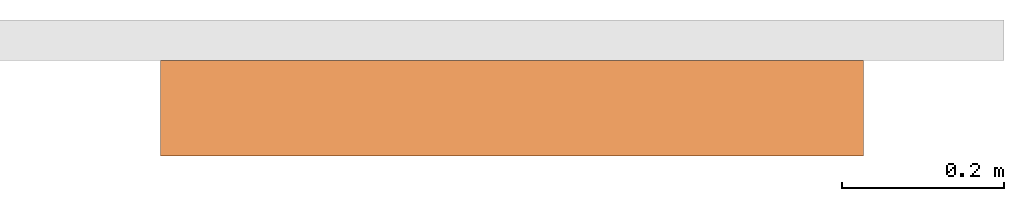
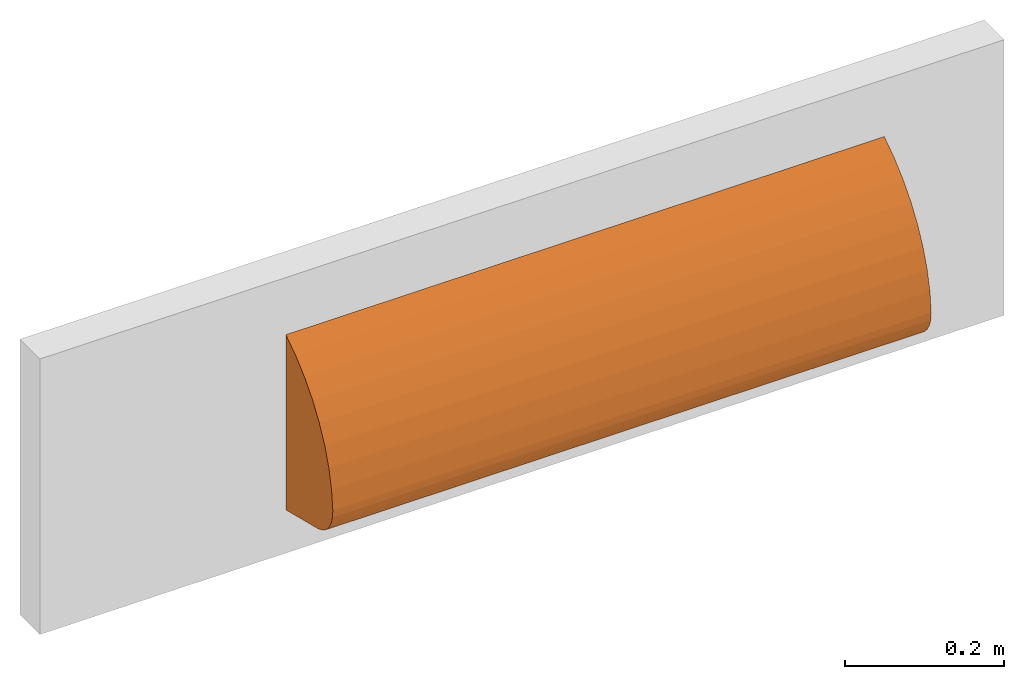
# One storey, part 2 of 2: 1 proxy.
"""IFC2X3 building model written with IfcOpenShell, lengths in millimetres."""

from ifc_helpers import new_model, entity, si_unit, converted_unit, derived_unit, direction, frame, frame_2d, origin, place, context, subcontext, project, spatial, polyline, circle_curve, parameter, trimmed, segment, composite_curve, outline, extrude, source, transform, mapped, material, element, save


model = new_model("IFC2X3")

# Units and contexts
model_context = context("Model", 3, precision=1e-05, world=origin(), true_north=direction((2.0, 6.12303176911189e-17, 1.0)))
context_of_model = context(None, 3, precision=1e-05, world=origin(), true_north=direction((2.0, 6.12303176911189e-17, 1.0)))
body_context = subcontext(model_context, "Body", "Model", "MODEL_VIEW")
ifc_project = project(units=[si_unit("LENGTHUNIT", "METRE", prefix="MILLI"), si_unit("AREAUNIT", "SQUARE_METRE"), si_unit("VOLUMEUNIT", "CUBIC_METRE"), converted_unit("PLANEANGLEUNIT", "DEGREE", entity("IfcRatioMeasure", 0.0174532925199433), si_unit("PLANEANGLEUNIT", "RADIAN"), dimensions=[0, 0, 0, 0, 0, 0, 0]), si_unit("MASSUNIT", "GRAM", prefix="KILO"), si_unit("TIMEUNIT", "SECOND"), si_unit("THERMODYNAMICTEMPERATUREUNIT", "KELVIN"), derived_unit("THERMALTRANSMITTANCEUNIT", [(si_unit("MASSUNIT", "GRAM", prefix="KILO"), 1), (si_unit("THERMODYNAMICTEMPERATUREUNIT", "KELVIN"), -1), (si_unit("TIMEUNIT", "SECOND"), -3)]), derived_unit("VOLUMETRICFLOWRATEUNIT", [(si_unit("LENGTHUNIT", "METRE"), 3), (si_unit("TIMEUNIT", "SECOND"), -1)]), si_unit("POWERUNIT", "WATT")], contexts=[model_context, context_of_model])

# Site, building, storey
site_placement = place(None, origin())
site = spatial("IfcSite", under=ifc_project, at=site_placement, Name="Default", CompositionType="ELEMENT")
building_placement = place(site_placement, origin())
building = spatial("IfcBuilding", under=site, at=building_placement, CompositionType="ELEMENT")
storey_placement = place(building_placement, origin())
storey = spatial("IfcBuildingStorey", under=building, at=storey_placement, Name="Level 1", CompositionType="ELEMENT", Elevation=0.0)

# Proxy
ifc_material = material(Name="Paper Towel Unit")
shared_shape = source(origin(), body_context, "Body", "SweptSolid", [
    extrude(outline(composite_curve([segment(trimmed(circle_curve(frame_2d((174.376780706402, -29.6873517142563), x_axis=(1.0, 0.0)), 243.177337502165), [parameter(120.858350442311)], [parameter(177.536097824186)], True, "PARAMETER"), True, "CONTINUOUS"), segment(trimmed(circle_curve(frame_2d((-18.6219652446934, -21.3826671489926), x_axis=(1.0, 0.0)), 50.000000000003), [parameter(177.536097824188)], [parameter(256.0)], True, "PARAMETER"), True, "CONTINUOUS"), segment(polyline([(-30.7180600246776, -69.8974534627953), (49.6469002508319, -89.9346885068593)]), True, "CONTINUOUS"), segment(polyline([(49.6469002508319, -89.9346885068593), (49.6469002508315, 179.065311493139)]), True, "CONTINUOUS")], self_intersect=False)), frame((-432.883759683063, -199.646900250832, 90.8216843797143), z_axis=(1.0, 0.0, 0.0), x_axis=(0.0, 1.0, 0.0)), (0.0, 0.0, 1.0), 849.0),
    extrude(outline(composite_curve([segment(trimmed(circle_curve(frame_2d((174.376780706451, -29.6873517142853), x_axis=(1.0, 0.0)), 243.177337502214), [parameter(120.858350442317)], [parameter(177.536097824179)], True, "PARAMETER"), True, "CONTINUOUS"), segment(trimmed(circle_curve(frame_2d((-18.6219652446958, -21.3826671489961), x_axis=(1.0, 0.0)), 50.0), [parameter(177.536097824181)], [parameter(256.0)], True, "PARAMETER"), True, "CONTINUOUS"), segment(polyline([(-30.7180600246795, -69.8974534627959), (49.6469002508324, -89.9346885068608)]), True, "CONTINUOUS"), segment(polyline([(49.6469002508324, -89.9346885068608), (49.6469002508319, 179.065311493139)]), True, "CONTINUOUS")], self_intersect=False)), frame((-442.883759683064, -199.646900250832, 90.821684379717), z_axis=(1.0, 0.0, 0.0), x_axis=(0.0, 1.0, 0.0)), (0.0, 0.0, 1.0), 10.0),
    extrude(outline(composite_curve([segment(trimmed(circle_curve(frame_2d((174.376780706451, -29.6873517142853), x_axis=(1.0, 0.0)), 243.177337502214), [parameter(120.858350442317)], [parameter(177.536097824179)], True, "PARAMETER"), True, "CONTINUOUS"), segment(trimmed(circle_curve(frame_2d((-18.6219652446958, -21.3826671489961), x_axis=(1.0, 0.0)), 50.0), [parameter(177.536097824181)], [parameter(256.0)], True, "PARAMETER"), True, "CONTINUOUS"), segment(polyline([(-30.7180600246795, -69.8974534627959), (49.6469002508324, -89.9346885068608)]), True, "CONTINUOUS"), segment(polyline([(49.6469002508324, -89.9346885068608), (49.6469002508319, 179.065311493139)]), True, "CONTINUOUS")], self_intersect=False)), frame((416.116240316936, -199.646900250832, 90.8216843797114), z_axis=(1.0, 0.0, 0.0), x_axis=(0.0, 1.0, 0.0)), (0.0, 0.0, 1.0), 10.0),
])
proxy_placement = place(storey_placement, frame((1444.01757173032, 4102.69853342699, -110.103965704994)))
element("IfcBuildingElementProxy", 1, at=proxy_placement, inside=storey, material=ifc_material, Name="BC101PRD:BC101PRD Dolphin Titan Liner Roll Dispenser", ObjectType="BC101PRD Dolphin Titan Liner Roll Dispenser", CompositionType="ELEMENT", context=body_context, shape_type="MappedRepresentation", body=[
    mapped(shared_shape, transform((0.0, 0.0, 0.0), scale=1.0)),
])

save(model, "model.ifc")
